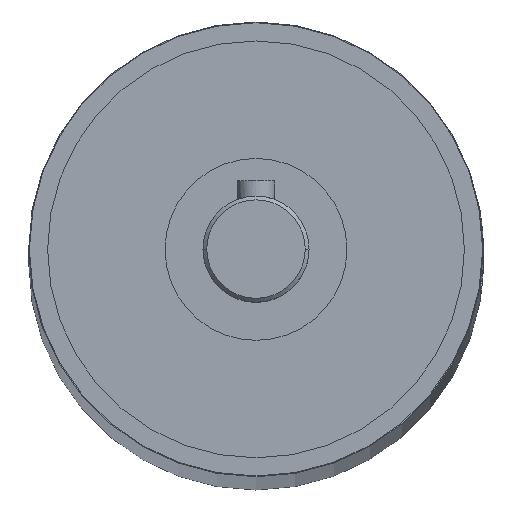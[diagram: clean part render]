
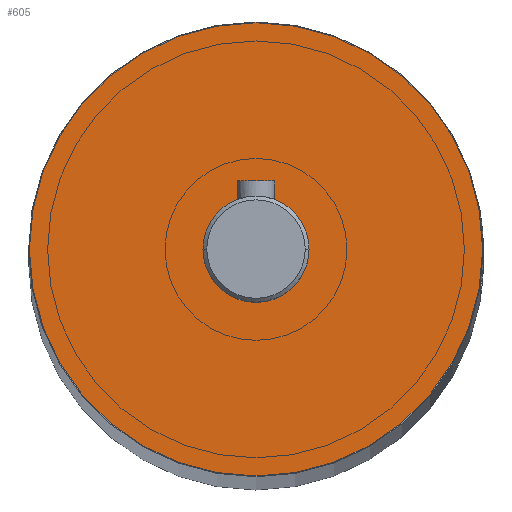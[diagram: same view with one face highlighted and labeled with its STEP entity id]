
A CAD part, top view. The second image highlights one B-rep face of the part: STEP entity #605.
In plain terms, the highlighted planar face has unit normal (0, 0, 1).
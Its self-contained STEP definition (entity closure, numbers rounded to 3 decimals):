
#35 = VERTEX_POINT ( 'NONE', #173 ) ;
#57 = AXIS2_PLACEMENT_3D ( 'NONE', #474, #1707, #1469 ) ;
#58 = EDGE_CURVE ( 'NONE', #35, #1040, #1367, .T. ) ;
#71 = AXIS2_PLACEMENT_3D ( 'NONE', #98, #566, #85 ) ;
#85 = DIRECTION ( 'NONE',  ( 1., 0., 0. ) ) ;
#98 = CARTESIAN_POINT ( 'NONE',  ( 0., 0., 502.5 ) ) ;
#173 = CARTESIAN_POINT ( 'NONE',  ( -7., 0., 502.5 ) ) ;
#279 = DIRECTION ( 'NONE',  ( 1., 0., 0. ) ) ;
#287 = ORIENTED_EDGE ( 'NONE', *, *, #1039, .T. ) ;
#314 = CIRCLE ( 'NONE', #704, 29.9 ) ;
#373 = EDGE_LOOP ( 'NONE', ( #287, #1826 ) ) ;
#388 = CIRCLE ( 'NONE', #1094, 29.9 ) ;
#429 = DIRECTION ( 'NONE',  ( 0., 0., 1. ) ) ;
#435 = VERTEX_POINT ( 'NONE', #1124 ) ;
#474 = CARTESIAN_POINT ( 'NONE',  ( 0., 0., 502.5 ) ) ;
#483 = DIRECTION ( 'NONE',  ( 1., 0., 0. ) ) ;
#566 = DIRECTION ( 'NONE',  ( 0., 0., 1. ) ) ;
#579 = DIRECTION ( 'NONE',  ( 1., 0., 0. ) ) ;
#605 = ADVANCED_FACE ( 'NONE', ( #933, #1410 ), #1567, .T. ) ;
#704 = AXIS2_PLACEMENT_3D ( 'NONE', #1777, #429, #279 ) ;
#806 = EDGE_CURVE ( 'NONE', #1040, #35, #1860, .T. ) ;
#857 = ORIENTED_EDGE ( 'NONE', *, *, #58, .F. ) ;
#889 = AXIS2_PLACEMENT_3D ( 'NONE', #957, #1271, #483 ) ;
#933 = FACE_BOUND ( 'NONE', #1085, .T. ) ;
#957 = CARTESIAN_POINT ( 'NONE',  ( 0., 0., 502.5 ) ) ;
#1035 = CARTESIAN_POINT ( 'NONE',  ( 7., 0., 502.5 ) ) ;
#1039 = EDGE_CURVE ( 'NONE', #435, #1570, #314, .T. ) ;
#1040 = VERTEX_POINT ( 'NONE', #1035 ) ;
#1048 = DIRECTION ( 'NONE',  ( 0., 0., 1. ) ) ;
#1085 = EDGE_LOOP ( 'NONE', ( #857, #1970 ) ) ;
#1094 = AXIS2_PLACEMENT_3D ( 'NONE', #1497, #1048, #579 ) ;
#1124 = CARTESIAN_POINT ( 'NONE',  ( -29.9, 0., 502.5 ) ) ;
#1271 = DIRECTION ( 'NONE',  ( 0., 0., 1. ) ) ;
#1367 = CIRCLE ( 'NONE', #57, 7. ) ;
#1403 = CARTESIAN_POINT ( 'NONE',  ( 29.9, 0., 502.5 ) ) ;
#1410 = FACE_OUTER_BOUND ( 'NONE', #373, .T. ) ;
#1469 = DIRECTION ( 'NONE',  ( 1., 0., 0. ) ) ;
#1497 = CARTESIAN_POINT ( 'NONE',  ( 0., 0., 502.5 ) ) ;
#1567 = PLANE ( 'NONE',  #889 ) ;
#1570 = VERTEX_POINT ( 'NONE', #1403 ) ;
#1707 = DIRECTION ( 'NONE',  ( 0., 0., 1. ) ) ;
#1777 = CARTESIAN_POINT ( 'NONE',  ( 0., 0., 502.5 ) ) ;
#1826 = ORIENTED_EDGE ( 'NONE', *, *, #1913, .T. ) ;
#1860 = CIRCLE ( 'NONE', #71, 7. ) ;
#1913 = EDGE_CURVE ( 'NONE', #1570, #435, #388, .T. ) ;
#1970 = ORIENTED_EDGE ( 'NONE', *, *, #806, .F. ) ;
